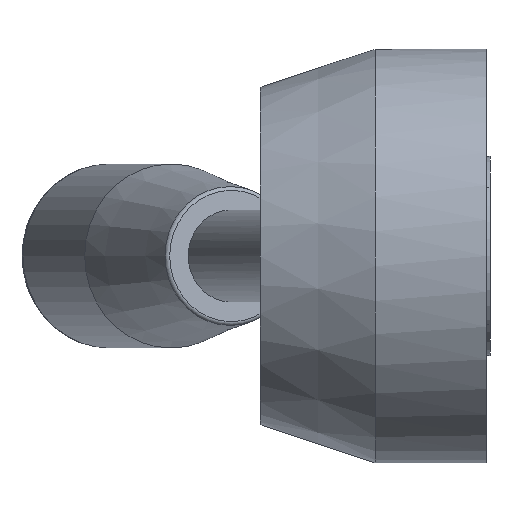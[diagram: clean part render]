
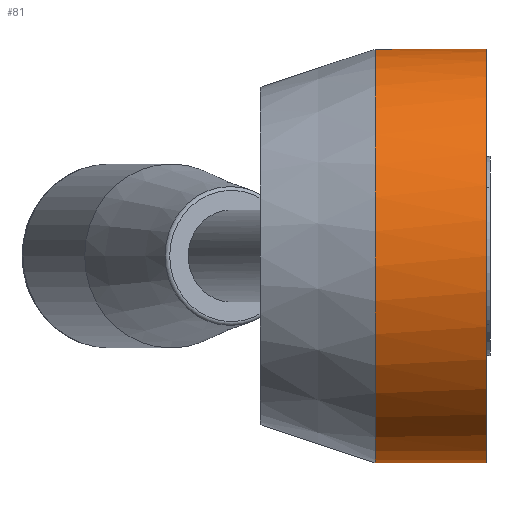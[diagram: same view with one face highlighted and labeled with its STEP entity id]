
A CAD part, left-side view. The second image highlights one B-rep face of the part: STEP entity #81.
In plain terms, the highlighted cylindrical face has radius 27 mm (diameter 54 mm), a full revolution.
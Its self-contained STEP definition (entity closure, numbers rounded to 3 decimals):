
#81 = ADVANCED_FACE( '', ( #135, #136 ), #137, .T. );
#135 = FACE_OUTER_BOUND( '', #236, .T. );
#136 = FACE_OUTER_BOUND( '', #237, .T. );
#137 = CYLINDRICAL_SURFACE( '', #238, 27. );
#236 = EDGE_LOOP( '', ( #369 ) );
#237 = EDGE_LOOP( '', ( #370, #371, #372, #373 ) );
#238 = AXIS2_PLACEMENT_3D( '', #374, #375, #376 );
#369 = ORIENTED_EDGE( '', *, *, #596, .F. );
#370 = ORIENTED_EDGE( '', *, *, #584, .F. );
#371 = ORIENTED_EDGE( '', *, *, #603, .T. );
#372 = ORIENTED_EDGE( '', *, *, #573, .F. );
#373 = ORIENTED_EDGE( '', *, *, #604, .F. );
#374 = CARTESIAN_POINT( '', ( 0., 0., 0. ) );
#375 = DIRECTION( '', ( 0., 1., 0. ) );
#376 = DIRECTION( '', ( 0., 0., -1. ) );
#573 = EDGE_CURVE( '', #644, #645, #646, .F. );
#584 = EDGE_CURVE( '', #663, #665, #666, .T. );
#596 = EDGE_CURVE( '', #688, #688, #689, .T. );
#603 = EDGE_CURVE( '', #663, #645, #702, .T. );
#604 = EDGE_CURVE( '', #665, #644, #703, .T. );
#644 = VERTEX_POINT( '', #763 );
#645 = VERTEX_POINT( '', #764 );
#646 = LINE( '', #765, #766 );
#663 = VERTEX_POINT( '', #793 );
#665 = VERTEX_POINT( '', #798 );
#666 = LINE( '', #799, #800 );
#688 = VERTEX_POINT( '', #827 );
#689 = CIRCLE( '', #828, 27. );
#702 = CIRCLE( '', #841, 27. );
#703 = CIRCLE( '', #842, 27. );
#763 = CARTESIAN_POINT( '', ( 23.867, 3., -12.624 ) );
#764 = CARTESIAN_POINT( '', ( 23.867, 15., -12.624 ) );
#765 = CARTESIAN_POINT( '', ( 23.867, 0., -12.624 ) );
#766 = VECTOR( '', #918, 1000. );
#793 = CARTESIAN_POINT( '', ( 23.867, 15., 12.624 ) );
#798 = CARTESIAN_POINT( '', ( 23.867, 3., 12.624 ) );
#799 = CARTESIAN_POINT( '', ( 23.867, 0., 12.624 ) );
#800 = VECTOR( '', #929, 1000. );
#827 = CARTESIAN_POINT( '', ( 0., 0.5, -27. ) );
#828 = AXIS2_PLACEMENT_3D( '', #953, #954, #955 );
#841 = AXIS2_PLACEMENT_3D( '', #974, #975, #976 );
#842 = AXIS2_PLACEMENT_3D( '', #977, #978, #979 );
#918 = DIRECTION( '', ( 0., -1., 0. ) );
#929 = DIRECTION( '', ( 0., -1., 0. ) );
#953 = CARTESIAN_POINT( '', ( 0., 0.5, 0. ) );
#954 = DIRECTION( '', ( 0., -1., 0. ) );
#955 = DIRECTION( '', ( 0., 0., -1. ) );
#974 = CARTESIAN_POINT( '', ( 0., 15., 0. ) );
#975 = DIRECTION( '', ( 0., -1., 0. ) );
#976 = DIRECTION( '', ( 0., 0., -1. ) );
#977 = CARTESIAN_POINT( '', ( 0., 3., 0. ) );
#978 = DIRECTION( '', ( 0., 1., 0. ) );
#979 = DIRECTION( '', ( 0., 0., 1. ) );
